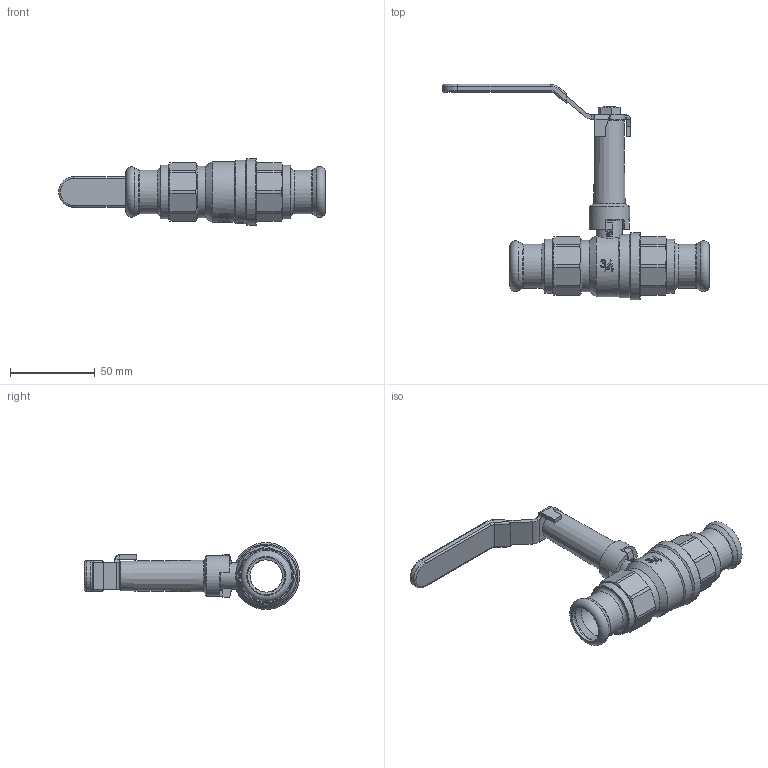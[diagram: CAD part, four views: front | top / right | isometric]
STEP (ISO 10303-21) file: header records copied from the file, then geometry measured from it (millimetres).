
FILE_DESCRIPTION((''),'2;1');
FILE_NAME('P:\Fastrack\53972_CRANE 3D\Press Fit\Fig_100PF\100EXS-PF\22MM\Fig_100EXS-PF-22MM.stp','2012-01-18T15:39:15',('dcole'),(''),'Autodesk Inventor 2008','Autodesk Inventor 2008','');
FILE_SCHEMA(('AUTOMOTIVE_DESIGN { 1 0 10303 214 1 1 1 1 }'));
Length unit declared in the file: millimetre
Products named in the file (1): Fig_100EXS-PF-22MM
Bounding box: 157.6 x 127.05 x 39.5 mm (x, y, z)
Volume: 79759.6 mm3; surface area: 38951 mm2
Topology: 1 solids, 2 shells, 659 faces, 2068 edges, 1516 vertices
Faces by surface type: plane 325, cylinder 130, bspline 119, cone 72, torus 13
Full cylindrical faces by diameter (mm): 2 x2, 6.75 x1, 8 x1, 8.1 x2, 8.3 x1, 10 x1, 10.5 x1, 10.6 x1, 10.75 x1, 10.8 x1, 11.1 x1, 15.5 x1, 18 x1, 19.6 x1, 20 x4, 22 x4, 24 x1, 24.117 x2, 26 x2, 30.5 x1, 31.8 x2, 36 x1, 37.5 x1, 39.5 x1
Entity records: 53528 total; most frequent: CARTESIAN_POINT 35529, ORIENTED_EDGE 3920, DIRECTION 2964, EDGE_CURVE 1960, VERTEX_POINT 1489, AXIS2_PLACEMENT_3D 1019, VECTOR 926, LINE 926
